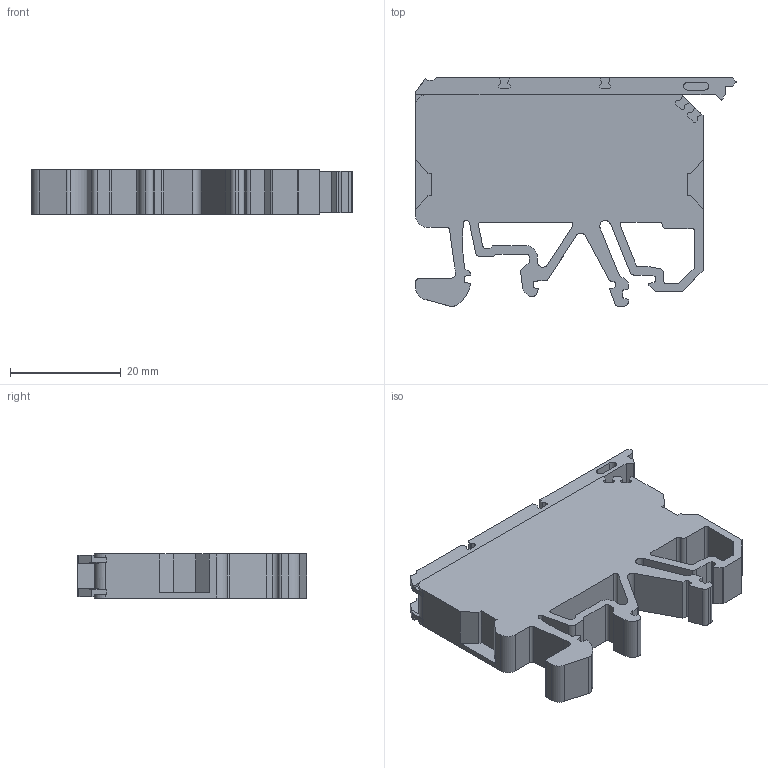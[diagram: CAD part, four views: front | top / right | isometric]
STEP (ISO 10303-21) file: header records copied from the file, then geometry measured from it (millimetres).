
FILE_DESCRIPTION(('Open CASCADE Model'),'2;1');
FILE_NAME('Open CASCADE Shape Model','2022-08-05T11:19:37',('Author'),( 'Open CASCADE'),'Open CASCADE STEP processor 6.5','Open CASCADE 6.5' ,'Unknown');
FILE_SCHEMA(('AUTOMOTIVE_DESIGN { 1 0 10303 214 1 1 1 1 }'));
Length unit declared in the file: millimetre
Products named in the file (267): CADSOFTTOOLS 1; CADSOFTTOOLS 1.1; CADSOFTTOOLS 1.2; CADSOFTTOOLS 1.3; CADSOFTTOOLS 1.4; CADSOFTTOOLS 1.5; CADSOFTTOOLS 1.6; CADSOFTTOOLS 1.7; CADSOFTTOOLS 1.8; CADSOFTTOOLS 1.9; CADSOFTTOOLS 1.10; CADSOFTTOOLS 1.11; CADSOFTTOOLS 1.12; CADSOFTTOOLS 1.13; CADSOFTTOOLS 1.14; CADSOFTTOOLS 1.15; CADSOFTTOOLS 1.16; CADSOFTTOOLS 1.17; CADSOFTTOOLS 1.18; CADSOFTTOOLS 1.19; CADSOFTTOOLS 1.20; CADSOFTTOOLS 1.21; CADSOFTTOOLS 1.22; CADSOFTTOOLS 1.23; CADSOFTTOOLS 1.24; CADSOFTTOOLS 1.25; CADSOFTTOOLS 1.26; CADSOFTTOOLS 1.27; CADSOFTTOOLS 1.28; CADSOFTTOOLS 1.29; CADSOFTTOOLS 1.30; CADSOFTTOOLS 1.31; CADSOFTTOOLS 1.32; CADSOFTTOOLS 1.33; CADSOFTTOOLS 1.34; CADSOFTTOOLS 1.35; CADSOFTTOOLS 1.36; CADSOFTTOOLS 1.37; CADSOFTTOOLS 1.38; CADSOFTTOOLS 1.39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
Assembly tree (266 placements, depth 2):
  CADSOFTTOOLS 1
    CADSOFTTOOLS 1.1
    CADSOFTTOOLS 1.2
    CADSOFTTOOLS 1.3
    CADSOFTTOOLS 1.4
    CADSOFTTOOLS 1.5
    CADSOFTTOOLS 1.6
    CADSOFTTOOLS 1.7
    CADSOFTTOOLS 1.8
    CADSOFTTOOLS 1.9
    CADSOFTTOOLS 1.10
    CADSOFTTOOLS 1.11
    CADSOFTTOOLS 1.12
    CADSOFTTOOLS 1.13
    CADSOFTTOOLS 1.14
    CADSOFTTOOLS 1.15
    CADSOFTTOOLS 1.16
    CADSOFTTOOLS 1.17
    CADSOFTTOOLS 1.18
    CADSOFTTOOLS 1.19
    CADSOFTTOOLS 1.20
    CADSOFTTOOLS 1.21
    CADSOFTTOOLS 1.22
    CADSOFTTOOLS 1.23
    CADSOFTTOOLS 1.24
    CADSOFTTOOLS 1.25
    CADSOFTTOOLS 1.26
    CADSOFTTOOLS 1.27
    CADSOFTTOOLS 1.28
    CADSOFTTOOLS 1.29
    CADSOFTTOOLS 1.30
    CADSOFTTOOLS 1.31
    CADSOFTTOOLS 1.32
    CADSOFTTOOLS 1.33
    CADSOFTTOOLS 1.34
    CADSOFTTOOLS 1.35
    CADSOFTTOOLS 1.36
    CADSOFTTOOLS 1.37
    CADSOFTTOOLS 1.38
    CADSOFTTOOLS 1.39
    CADSOFTTOOLS 1.40
    CADSOFTTOOLS 1.41
    CADSOFTTOOLS 1.42
    CADSOFTTOOLS 1.43
    CADSOFTTOOLS 1.44
    CADSOFTTOOLS 1.45
    CADSOFTTOOLS 1.46
    CADSOFTTOOLS 1.47
    CADSOFTTOOLS 1.48
    CADSOFTTOOLS 1.49
    CADSOFTTOOLS 1.50
    CADSOFTTOOLS 1.51
    CADSOFTTOOLS 1.52
    CADSOFTTOOLS 1.53
    CADSOFTTOOLS 1.54
    CADSOFTTOOLS 1.55
    CADSOFTTOOLS 1.56
    CADSOFTTOOLS 1.57
    CADSOFTTOOLS 1.58
    CADSOFTTOOLS 1.59
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Bounding box: 58.01 x 41.5 x 8 mm (x, y, z)
Surface area: 6831.5 mm2 (no closed solid volume)
Topology: 0 solids, 266 shells, 266 faces, 1534 edges, 1532 vertices
Faces by surface type: plane 196, cylinder 70
Full cylindrical faces by diameter (mm): 4 x2
Entity records: 30939 total; most frequent: CARTESIAN_POINT 6049, DIRECTION 4070, LINE 2355, VECTOR 2355, ORIENTED_EDGE 1536, PCURVE 1536, DEFINITIONAL_REPRESENTATION 1536, EDGE_CURVE 1534
